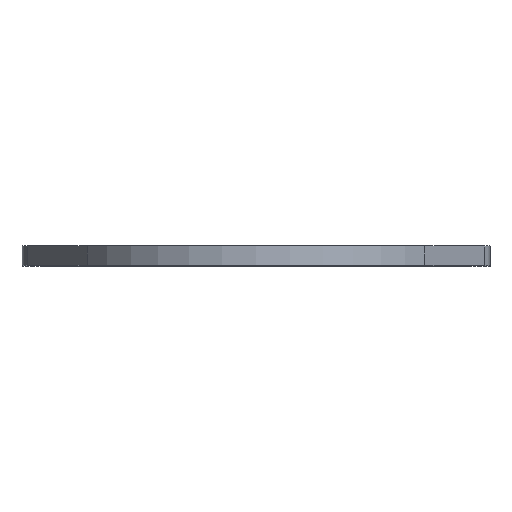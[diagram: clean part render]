
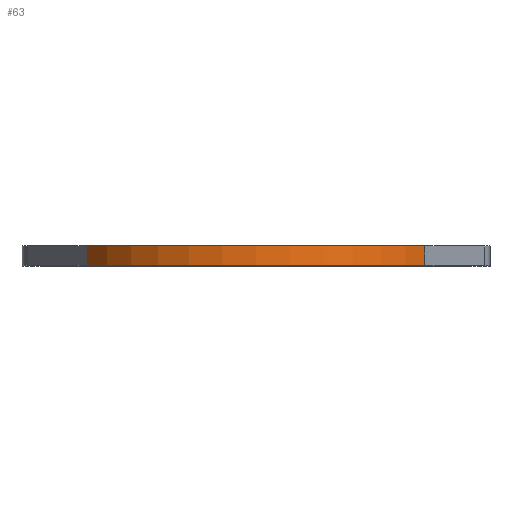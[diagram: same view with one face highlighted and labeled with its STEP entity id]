
A CAD part, top view. The second image highlights one B-rep face of the part: STEP entity #63.
In plain terms, the highlighted cylindrical face has radius 25 mm (diameter 50 mm), a partial arc.
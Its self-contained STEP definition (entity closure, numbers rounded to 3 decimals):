
#63 = ADVANCED_FACE( '', ( #141 ), #142, .T. );
#141 = FACE_OUTER_BOUND( '', #232, .T. );
#142 = CYLINDRICAL_SURFACE( '', #233, 25. );
#232 = EDGE_LOOP( '', ( #367, #368, #369, #370 ) );
#233 = AXIS2_PLACEMENT_3D( '', #371, #372, #373 );
#367 = ORIENTED_EDGE( '', *, *, #531, .T. );
#368 = ORIENTED_EDGE( '', *, *, #576, .T. );
#369 = ORIENTED_EDGE( '', *, *, #577, .F. );
#370 = ORIENTED_EDGE( '', *, *, #552, .F. );
#371 = CARTESIAN_POINT( '', ( 0., 1.25, 21. ) );
#372 = DIRECTION( '', ( 0., 1., 0. ) );
#373 = DIRECTION( '', ( 0., 0., -1. ) );
#531 = EDGE_CURVE( '', #622, #626, #628, .T. );
#552 = EDGE_CURVE( '', #622, #668, #669, .T. );
#576 = EDGE_CURVE( '', #626, #704, #705, .T. );
#577 = EDGE_CURVE( '', #668, #704, #706, .T. );
#622 = VERTEX_POINT( '', #761 );
#626 = VERTEX_POINT( '', #767 );
#628 = LINE( '', #770, #771 );
#668 = VERTEX_POINT( '', #816 );
#669 = CIRCLE( '', #817, 25. );
#704 = VERTEX_POINT( '', #865 );
#705 = CIRCLE( '', #866, 25. );
#706 = LINE( '', #867, #868 );
#761 = CARTESIAN_POINT( '', ( -21.651, 1.25, 33.5 ) );
#767 = CARTESIAN_POINT( '', ( -21.651, -1.25, 33.5 ) );
#770 = CARTESIAN_POINT( '', ( -21.651, 1.25, 33.5 ) );
#771 = VECTOR( '', #937, 1000. );
#816 = CARTESIAN_POINT( '', ( 21.651, 1.25, 33.5 ) );
#817 = AXIS2_PLACEMENT_3D( '', #985, #986, #987 );
#865 = CARTESIAN_POINT( '', ( 21.651, -1.25, 33.5 ) );
#866 = AXIS2_PLACEMENT_3D( '', #1013, #1014, #1015 );
#867 = CARTESIAN_POINT( '', ( 21.651, 1.25, 33.5 ) );
#868 = VECTOR( '', #1016, 1000. );
#937 = DIRECTION( '', ( 0., -1., 0. ) );
#985 = CARTESIAN_POINT( '', ( 0., 1.25, 21. ) );
#986 = DIRECTION( '', ( 0., 1., 0. ) );
#987 = DIRECTION( '', ( 1., 0., 0. ) );
#1013 = CARTESIAN_POINT( '', ( 0., -1.25, 21. ) );
#1014 = DIRECTION( '', ( 0., 1., 0. ) );
#1015 = DIRECTION( '', ( 1., 0., 0. ) );
#1016 = DIRECTION( '', ( 0., -1., 0. ) );
